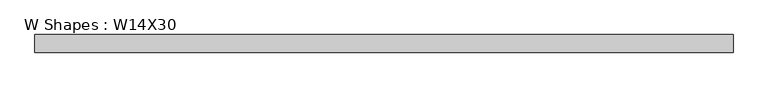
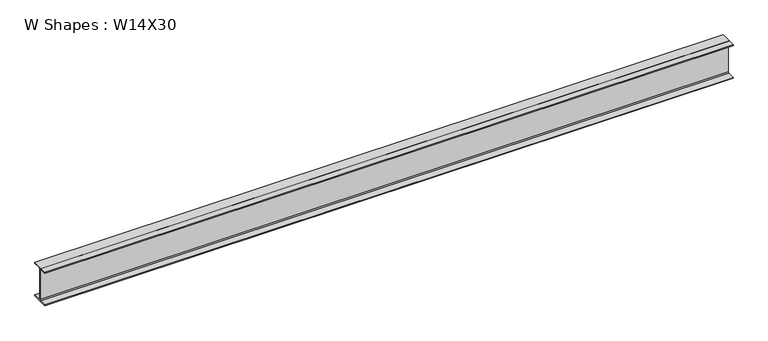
"""IFC4 building model written with IfcOpenShell, lengths in millimetres: beam geometry, W Shapes : W14X30."""

from ifc_helpers import new_model, si_unit, point, frame, frame_2d, origin, place, context, project, spatial, polyline, circle_curve, trimmed, segment, composite_curve, outline, extrude, source, transform, mapped, element, save


def w_shapes_w14x30_ae17c4a2(model_context):
    return source(origin(), model_context, "Body", "SweptSolid", [
        extrude(outline(composite_curve([segment(polyline([(85.471, -165.481), (85.471, -175.26), (-85.471, -175.26), (-85.471, -165.481), (-13.589, -165.481)]), True, "CONTINUOUS"), segment(trimmed(circle_curve(frame_2d((-13.589, -155.321)), 10.16), [point((-13.589, -165.481))], [point((-3.429, -155.321))], True, "CARTESIAN"), True, "CONTINUOUS"), segment(polyline([(-3.429, -155.321), (-3.429, 155.321)]), True, "CONTINUOUS"), segment(trimmed(circle_curve(frame_2d((-13.589, 155.321)), 10.16), [point((-3.429, 155.321))], [point((-13.589, 165.481))], True, "CARTESIAN"), True, "CONTINUOUS"), segment(polyline([(-13.589, 165.481), (-85.471, 165.481), (-85.471, 175.26), (85.471, 175.26), (85.471, 165.481), (13.589, 165.481)]), True, "CONTINUOUS"), segment(trimmed(circle_curve(frame_2d((13.589, 155.321)), 10.16), [point((13.589, 165.481))], [point((3.429, 155.321))], True, "CARTESIAN"), True, "CONTINUOUS"), segment(polyline([(3.429, 155.321), (3.429, -155.321)]), True, "CONTINUOUS"), segment(trimmed(circle_curve(frame_2d((13.589, -155.321)), 10.16), [point((3.429, -155.321))], [point((13.589, -165.481))], True, "CARTESIAN"), True, "CONTINUOUS"), segment(polyline([(13.589, -165.481), (85.471, -165.481)]), True, "CONTINUOUS")], self_intersect=False)), frame((-3391.408, 0.0, 0.0), z_axis=(1.0, 0.0, 0.0), x_axis=(0.0, 1.0, 0.0)), (0.0, 0.0, 1.0), 6782.816),
    ])


if __name__ == "__main__":
    model = new_model("IFC4")
    model_context = context("Model", 3, world=origin())
    ifc_project = project(units=[si_unit("LENGTHUNIT", "METRE", prefix="MILLI")], contexts=[model_context])
    site = spatial("IfcSite", under=ifc_project)
    building = spatial("IfcBuilding", under=site)
    placement = place(None, origin())
    w_shapes_w14x30_shape = w_shapes_w14x30_ae17c4a2(model_context)
    element("IfcBeam", 1, ObjectType="W Shapes : W14X30", at=placement, inside=building, context=model_context, shape_type="MappedRepresentation", body=[
        mapped(w_shapes_w14x30_shape, transform((0.0, 0.0, 0.0), x_axis=(1.0, 0.0, 0.0), y_axis=(0.0, 1.0, 0.0), z_axis=(0.0, 0.0, 1.0))),
    ])
    save(model, "model.ifc")
